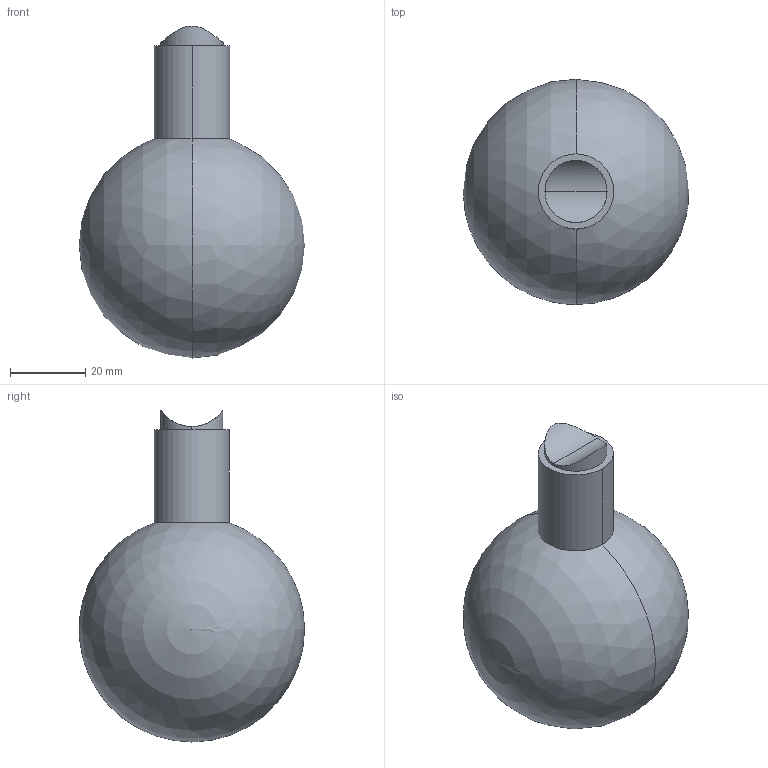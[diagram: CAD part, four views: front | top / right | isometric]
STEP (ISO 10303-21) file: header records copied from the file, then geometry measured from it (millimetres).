
FILE_DESCRIPTION (( 'STEP AP214' ), '1' );
FILE_NAME ('Globe 60.STEP', '2021-09-16T02:05:01', ( '' ), ( '' ), 'SwSTEP 2.0', 'SolidWorks 2017', '' );
FILE_SCHEMA (( 'AUTOMOTIVE_DESIGN' ));
Length unit declared in the file: millimetre
Products named in the file (1): Globe 60
Bounding box: 60 x 59.9 x 88.31 mm (x, y, z)
Volume: 23450.6 mm3; surface area: 25503.6 mm2
Topology: 3 solids, 3 shells, 21 faces, 45 edges, 28 vertices
Faces by surface type: cylinder 8, plane 5, sphere 4, cone 4
Entity records: 755 total; most frequent: CARTESIAN_POINT 177, DIRECTION 99, ORIENTED_EDGE 70, AXIS2_PLACEMENT_3D 44, EDGE_CURVE 35, EDGE_LOOP 23, CIRCLE 22, VERTEX_POINT 22
